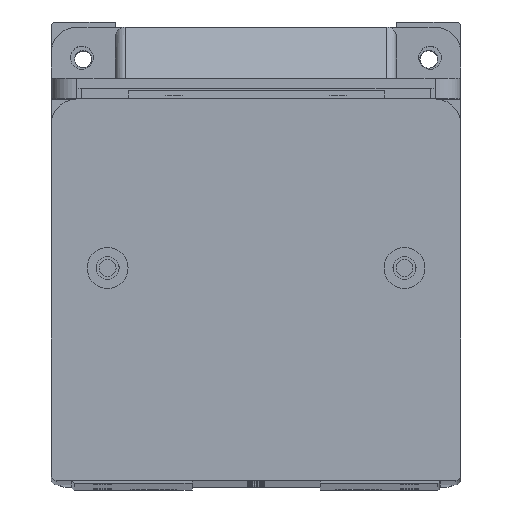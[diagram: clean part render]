
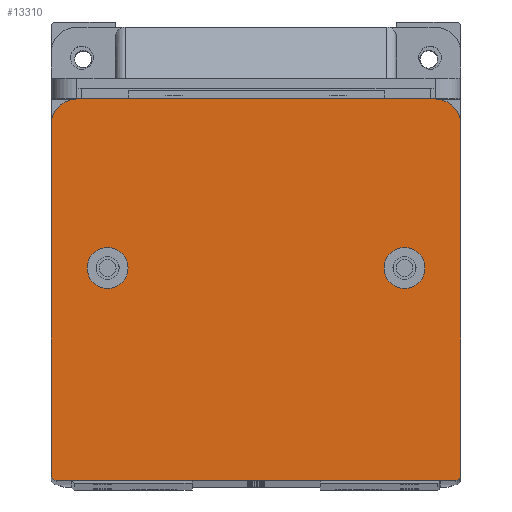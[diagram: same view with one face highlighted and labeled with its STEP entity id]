
A CAD part, top view. The second image highlights one B-rep face of the part: STEP entity #13310.
In plain terms, the highlighted planar face has unit normal (0, 0, 1).
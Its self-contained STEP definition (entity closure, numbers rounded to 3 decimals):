
#166 = EDGE_LOOP ( 'NONE', ( #19438, #5140 ) ) ;
#320 = ORIENTED_EDGE ( 'NONE', *, *, #4479, .T. ) ;
#1297 = CARTESIAN_POINT ( 'NONE',  ( 0., 1., 10. ) ) ;
#1558 = EDGE_CURVE ( 'NONE', #5518, #11696, #3713, .T. ) ;
#1709 = ORIENTED_EDGE ( 'NONE', *, *, #14948, .T. ) ;
#1736 = EDGE_CURVE ( 'NONE', #2803, #20895, #20764, .T. ) ;
#2319 = ORIENTED_EDGE ( 'NONE', *, *, #22477, .T. ) ;
#2410 = AXIS2_PLACEMENT_3D ( 'NONE', #20425, #8936, #12814 ) ;
#2690 = CARTESIAN_POINT ( 'NONE',  ( 79., 1., 10. ) ) ;
#2803 = VERTEX_POINT ( 'NONE', #22212 ) ;
#2961 = DIRECTION ( 'NONE',  ( 1., 0., 0. ) ) ;
#3065 = VERTEX_POINT ( 'NONE', #24125 ) ;
#3089 = ORIENTED_EDGE ( 'NONE', *, *, #15245, .T. ) ;
#3572 = DIRECTION ( 'NONE',  ( 1., 0., 0. ) ) ;
#3713 = CIRCLE ( 'NONE', #22480, 4. ) ;
#4479 = EDGE_CURVE ( 'NONE', #20895, #20475, #21216, .T. ) ;
#4705 = VECTOR ( 'NONE', #5417, 1000. ) ;
#4783 = CARTESIAN_POINT ( 'NONE',  ( 65., 41.5, 10. ) ) ;
#4870 = VECTOR ( 'NONE', #17344, 1000. ) ;
#5140 = ORIENTED_EDGE ( 'NONE', *, *, #16933, .F. ) ;
#5405 = CARTESIAN_POINT ( 'NONE',  ( 0., 0., 10. ) ) ;
#5417 = DIRECTION ( 'NONE',  ( 0., 1., 0. ) ) ;
#5518 = VERTEX_POINT ( 'NONE', #9568 ) ;
#6371 = CARTESIAN_POINT ( 'NONE',  ( 5., 69.5, 10. ) ) ;
#6424 = EDGE_LOOP ( 'NONE', ( #2319, #12266, #12662, #12747, #1709, #24642, #320, #3089 ) ) ;
#6457 = DIRECTION ( 'NONE',  ( -1., 0., 0. ) ) ;
#6504 = LINE ( 'NONE', #18551, #4705 ) ;
#6702 = CARTESIAN_POINT ( 'NONE',  ( 80., 1., 10. ) ) ;
#7031 = DIRECTION ( 'NONE',  ( 0., 0., 1. ) ) ;
#7084 = AXIS2_PLACEMENT_3D ( 'NONE', #16113, #24005, #23850 ) ;
#7777 = FACE_BOUND ( 'NONE', #21850, .T. ) ;
#7793 = CIRCLE ( 'NONE', #7084, 4. ) ;
#7884 = CIRCLE ( 'NONE', #8174, 4. ) ;
#8174 = AXIS2_PLACEMENT_3D ( 'NONE', #17076, #15391, #19070 ) ;
#8175 = DIRECTION ( 'NONE',  ( 0., 0., 1. ) ) ;
#8302 = AXIS2_PLACEMENT_3D ( 'NONE', #10728, #16592, #20526 ) ;
#8312 = CARTESIAN_POINT ( 'NONE',  ( 7., 41.5, 10. ) ) ;
#8525 = DIRECTION ( 'NONE',  ( 0., 0., 1. ) ) ;
#8826 = CARTESIAN_POINT ( 'NONE',  ( 0., 0., 10. ) ) ;
#8936 = DIRECTION ( 'NONE',  ( 0., 0., 1. ) ) ;
#9557 = CARTESIAN_POINT ( 'NONE',  ( 5., 74.5, 10. ) ) ;
#9568 = CARTESIAN_POINT ( 'NONE',  ( 15., 41.5, 10. ) ) ;
#10659 = VERTEX_POINT ( 'NONE', #22904 ) ;
#10669 = EDGE_CURVE ( 'NONE', #11696, #5518, #7884, .T. ) ;
#10728 = CARTESIAN_POINT ( 'NONE',  ( 69., 41.5, 10. ) ) ;
#11696 = VERTEX_POINT ( 'NONE', #8312 ) ;
#11882 = CARTESIAN_POINT ( 'NONE',  ( 0., 0., 10. ) ) ;
#11968 = DIRECTION ( 'NONE',  ( -1., 0., 0. ) ) ;
#12085 = AXIS2_PLACEMENT_3D ( 'NONE', #8826, #12863, #18390 ) ;
#12266 = ORIENTED_EDGE ( 'NONE', *, *, #19757, .T. ) ;
#12429 = EDGE_CURVE ( 'NONE', #22048, #23170, #7793, .T. ) ;
#12662 = ORIENTED_EDGE ( 'NONE', *, *, #24152, .T. ) ;
#12747 = ORIENTED_EDGE ( 'NONE', *, *, #18208, .T. ) ;
#12814 = DIRECTION ( 'NONE',  ( -1., 0., 0. ) ) ;
#12827 = CARTESIAN_POINT ( 'NONE',  ( 11., 41.5, 10. ) ) ;
#12863 = DIRECTION ( 'NONE',  ( 0., 0., -1. ) ) ;
#13310 = ADVANCED_FACE ( 'NONE', ( #17987, #7777, #17085 ), #16474, .F. ) ;
#13507 = AXIS2_PLACEMENT_3D ( 'NONE', #23843, #8525, #16185 ) ;
#13885 = ORIENTED_EDGE ( 'NONE', *, *, #10669, .F. ) ;
#13959 = LINE ( 'NONE', #5405, #19969 ) ;
#14226 = AXIS2_PLACEMENT_3D ( 'NONE', #6371, #17942, #6457 ) ;
#14661 = CARTESIAN_POINT ( 'NONE',  ( 0., 74.5, 10. ) ) ;
#14948 = EDGE_CURVE ( 'NONE', #24601, #2803, #6504, .T. ) ;
#15245 = EDGE_CURVE ( 'NONE', #20475, #3065, #16391, .T. ) ;
#15391 = DIRECTION ( 'NONE',  ( 0., 0., 1. ) ) ;
#15837 = VERTEX_POINT ( 'NONE', #16656 ) ;
#16113 = CARTESIAN_POINT ( 'NONE',  ( 69., 41.5, 10. ) ) ;
#16185 = DIRECTION ( 'NONE',  ( -1., 0., 0. ) ) ;
#16349 = CARTESIAN_POINT ( 'NONE',  ( 73., 41.5, 10. ) ) ;
#16391 = CIRCLE ( 'NONE', #14226, 5. ) ;
#16404 = CIRCLE ( 'NONE', #2410, 1. ) ;
#16474 = PLANE ( 'NONE',  #12085 ) ;
#16592 = DIRECTION ( 'NONE',  ( 0., 0., 1. ) ) ;
#16656 = CARTESIAN_POINT ( 'NONE',  ( 79., 0., 10. ) ) ;
#16933 = EDGE_CURVE ( 'NONE', #23170, #22048, #19807, .T. ) ;
#17042 = VECTOR ( 'NONE', #20439, 1000. ) ;
#17076 = CARTESIAN_POINT ( 'NONE',  ( 11., 41.5, 10. ) ) ;
#17085 = FACE_OUTER_BOUND ( 'NONE', #6424, .T. ) ;
#17164 = CARTESIAN_POINT ( 'NONE',  ( 75., 74.5, 10. ) ) ;
#17344 = DIRECTION ( 'NONE',  ( 0., -1., 0. ) ) ;
#17942 = DIRECTION ( 'NONE',  ( 0., 0., 1. ) ) ;
#17987 = FACE_BOUND ( 'NONE', #166, .T. ) ;
#18208 = EDGE_CURVE ( 'NONE', #15837, #24601, #21573, .T. ) ;
#18390 = DIRECTION ( 'NONE',  ( -1., 0., 0. ) ) ;
#18551 = CARTESIAN_POINT ( 'NONE',  ( 80., 0., 10. ) ) ;
#18960 = ORIENTED_EDGE ( 'NONE', *, *, #1558, .F. ) ;
#19070 = DIRECTION ( 'NONE',  ( 1., 0., 0. ) ) ;
#19438 = ORIENTED_EDGE ( 'NONE', *, *, #12429, .F. ) ;
#19701 = VERTEX_POINT ( 'NONE', #1297 ) ;
#19757 = EDGE_CURVE ( 'NONE', #19701, #10659, #16404, .T. ) ;
#19807 = CIRCLE ( 'NONE', #8302, 4. ) ;
#19969 = VECTOR ( 'NONE', #3572, 1000. ) ;
#20425 = CARTESIAN_POINT ( 'NONE',  ( 1., 1., 10. ) ) ;
#20439 = DIRECTION ( 'NONE',  ( -1., 0., 0. ) ) ;
#20475 = VERTEX_POINT ( 'NONE', #9557 ) ;
#20526 = DIRECTION ( 'NONE',  ( 1., 0., 0. ) ) ;
#20764 = CIRCLE ( 'NONE', #13507, 5. ) ;
#20895 = VERTEX_POINT ( 'NONE', #17164 ) ;
#21216 = LINE ( 'NONE', #14661, #17042 ) ;
#21573 = CIRCLE ( 'NONE', #24773, 1. ) ;
#21850 = EDGE_LOOP ( 'NONE', ( #18960, #13885 ) ) ;
#22048 = VERTEX_POINT ( 'NONE', #16349 ) ;
#22212 = CARTESIAN_POINT ( 'NONE',  ( 80., 69.5, 10. ) ) ;
#22477 = EDGE_CURVE ( 'NONE', #3065, #19701, #23703, .T. ) ;
#22480 = AXIS2_PLACEMENT_3D ( 'NONE', #12827, #7031, #2961 ) ;
#22904 = CARTESIAN_POINT ( 'NONE',  ( 1., 0., 10. ) ) ;
#23170 = VERTEX_POINT ( 'NONE', #4783 ) ;
#23703 = LINE ( 'NONE', #11882, #4870 ) ;
#23843 = CARTESIAN_POINT ( 'NONE',  ( 75., 69.5, 10. ) ) ;
#23850 = DIRECTION ( 'NONE',  ( 1., 0., 0. ) ) ;
#24005 = DIRECTION ( 'NONE',  ( 0., 0., 1. ) ) ;
#24125 = CARTESIAN_POINT ( 'NONE',  ( 0., 69.5, 10. ) ) ;
#24152 = EDGE_CURVE ( 'NONE', #10659, #15837, #13959, .T. ) ;
#24601 = VERTEX_POINT ( 'NONE', #6702 ) ;
#24642 = ORIENTED_EDGE ( 'NONE', *, *, #1736, .T. ) ;
#24773 = AXIS2_PLACEMENT_3D ( 'NONE', #2690, #8175, #11968 ) ;
